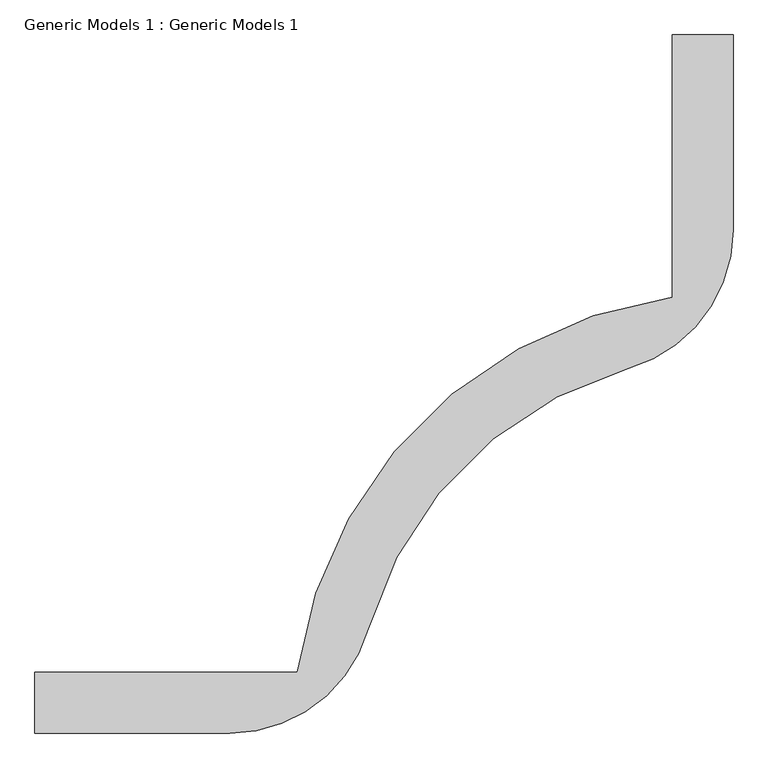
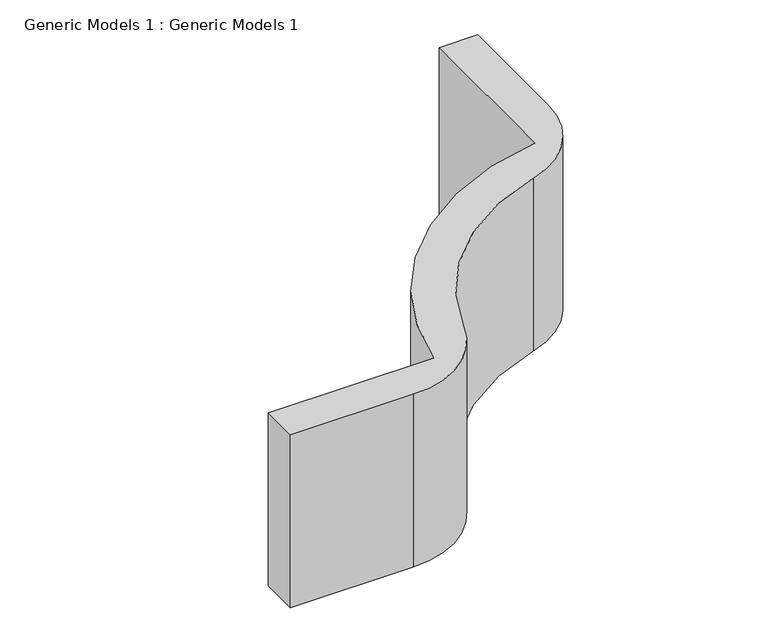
"""IFC4 building model written with IfcOpenShell, lengths in millimetres: proxy geometry, Generic Models 1 : Generic Models 1."""

from ifc_helpers import new_model, si_unit, point, frame_2d, origin, origin_with_axes, place, context, project, spatial, polyline, circle_curve, trimmed, segment, composite_curve, outline, extrude, source, transform, mapped, element, save


def generic_models_1_generic_models_1_00061b73(model_context):
    return source(origin(), model_context, "Body", "SweptSolid", [
        extrude(outline(composite_curve([segment(polyline([(-9725.243048, 6343.0684151), (-10377.1976545, 6343.0684151), (-10377.1976545, 6546.2684151), (-9499.5165668, 6546.2684151)]), True, "CONTINUOUS"), segment(trimmed(circle_curve(frame_2d((-8040.3976545, 6343.0684151)), 1473.2), [point((-9499.5165668, 6546.2684151))], [point((-8243.5976545, 7802.1873273))], False, "CARTESIAN"), True, "CONTINUOUS"), segment(polyline([(-8243.5976545, 7802.1873273), (-8243.5976545, 8679.8684151), (-8040.3976545, 8679.8684151), (-8040.3976545, 8027.9138086)]), True, "CONTINUOUS"), segment(trimmed(circle_curve(frame_2d((-8522.9976545, 8027.9138086)), 482.6), [point((-8040.3976545, 8027.9138086))], [point((-8390.1077995, 7563.9708742))], False, "CARTESIAN"), True, "CONTINUOUS"), segment(trimmed(circle_curve(frame_2d((-8040.3976545, 6343.0684151)), 1270.0), [point((-8390.1077995, 7563.9708742))], [point((-9261.3001136, 6692.77856))], True, "CARTESIAN"), True, "CONTINUOUS"), segment(trimmed(circle_curve(frame_2d((-9725.243048, 6825.6684151)), 482.6), [point((-9261.3001136, 6692.77856))], [point((-9725.243048, 6343.0684151))], False, "CARTESIAN"), True, "CONTINUOUS")], self_intersect=False)), origin_with_axes(), (0.0, 0.0, 1.0), 965.2),
    ])


if __name__ == "__main__":
    model = new_model("IFC4")
    model_context = context("Model", 3, world=origin())
    ifc_project = project(units=[si_unit("LENGTHUNIT", "METRE", prefix="MILLI")], contexts=[model_context])
    site = spatial("IfcSite", under=ifc_project)
    building = spatial("IfcBuilding", under=site)
    placement = place(None, origin())
    generic_models_1_generic_models_1_shape = generic_models_1_generic_models_1_00061b73(model_context)
    element("IfcBuildingElementProxy", 1, Name="Generic Models 1 : Generic Models 1", ObjectType="Generic Models 1 : Generic Models 1", at=placement, inside=building, context=model_context, shape_type="MappedRepresentation", body=[
        mapped(generic_models_1_generic_models_1_shape, transform((0.0, 0.0, 0.0), x_axis=(1.0, 0.0, 0.0), y_axis=(0.0, 1.0, 0.0), z_axis=(0.0, 0.0, 1.0))),
    ])
    save(model, "model.ifc")
